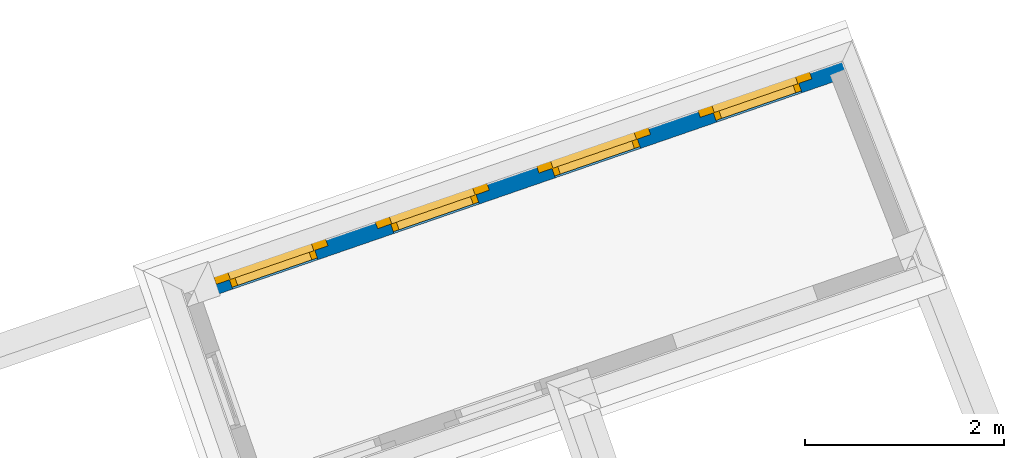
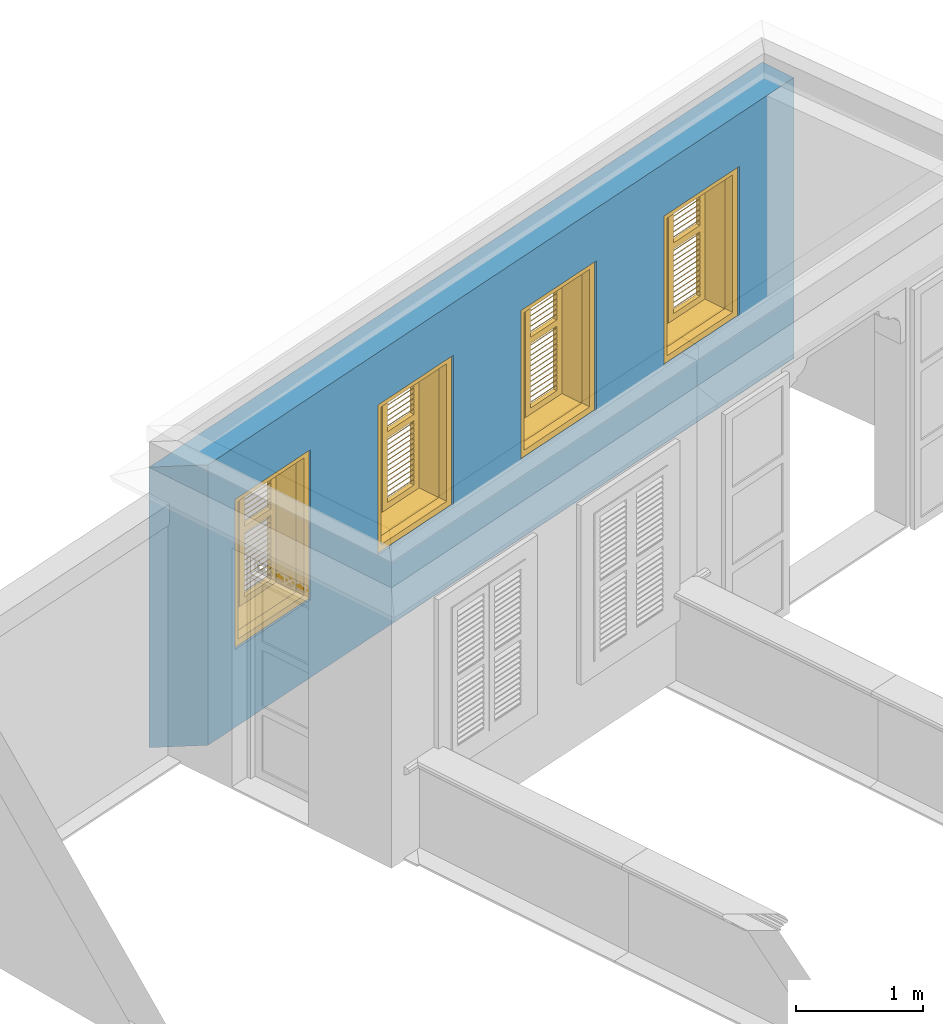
# One storey, part 13 of 16: 4 windows, 1 wall, 4 openings.
"""IFC4 building model written with IfcOpenShell, lengths in metres."""

from ifc_helpers import new_model, si_unit, frame, origin, origin_with_axes, place, context, subcontext, project, spatial, polyline, outline, extrude, faceted_brep, source, transform, mapped, material, layer, layer_set, layer_usage, type_object, type_shapes, element, fill, save


model = new_model("IFC4")

# Units and contexts
model_context = context("Model", 3, world=origin_with_axes())
body_context = subcontext(model_context, "Body", "Model", "MODEL_VIEW")
ifc_project = project(units=[si_unit("PLANEANGLEUNIT", "RADIAN"), si_unit("MASSUNIT", "GRAM", prefix="KILO"), si_unit("FORCEUNIT", "NEWTON", prefix="KILO"), si_unit("LENGTHUNIT", "METRE"), si_unit("AREAUNIT", "SQUARE_METRE"), si_unit("VOLUMEUNIT", "CUBIC_METRE")], contexts=[model_context, model_context])

# Site, building, storey
site_placement = place(None, origin_with_axes())
site = spatial("IfcSite", under=ifc_project, at=site_placement, Name="Site plot-8", CompositionType="ELEMENT")
building_placement = place(None, origin_with_axes())
building = spatial("IfcBuilding", under=site, at=building_placement, Name="Building plot-8", CompositionType="ELEMENT")
storey_placement = place(None, frame((0.0, 0.0, 3.0), z_axis=(0.0, 0.0, 1.0), x_axis=(1.0, 0.0, 0.0)))
storey = spatial("IfcBuildingStorey", under=building, at=storey_placement, Name="plot-8 1", CompositionType="ELEMENT", Elevation=3.0)

# Wall, openings, windows
ifc_material = material(Name="Masonry")
ifc_layer = layer(ifc_material, 0.33, ventilated=False)
ifc_layer_set = layer_set([ifc_layer], Name="exterior_0.08_0.25")
ifc_layer_usage = layer_usage(ifc_layer_set, "AXIS2", "POSITIVE", -0.25)
wall_type = type_object("IfcWallType", Name="exterior_0.08_0.25", PredefinedType="SOLIDWALL", material=ifc_layer_set)
wall_placement = place(storey_placement, frame((-5.76279158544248, 24.7267673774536, 0.0), z_axis=(0.0, 0.0, 1.0), x_axis=(-0.945331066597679, -0.326112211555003, 0.0)))
wall = element("IfcWall", 1, at=wall_placement, inside=storey, type_object=wall_type, material=ifc_layer_usage, Name="exterior", context=body_context, shape_type="SweptSolid", body=[
    extrude(outline(polyline([(-0.25, 0.0799999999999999), (-0.249999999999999, -0.249999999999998), (7.12613075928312, -0.25), (6.79613075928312, 0.0800000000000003), (-0.25, 0.0799999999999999)])), origin_with_axes(), (0.0, 0.0, 1.0), 2.7),
])
opening_1_placement = place(wall_placement, frame((0.40451634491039, 0.0, 0.75)))
opening_1 = element("IfcOpeningElement", 2, at=opening_1_placement, cuts=wall, Name="My Opening", ObjectType="Opening", context=body_context, shape_type="SweptSolid", body=[
    extrude(outline(polyline([(0.0, -0.269999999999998), (0.909999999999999, -0.27), (0.91, 1.1), (5.55111512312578e-16, 1.1), (0.0, -0.269999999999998)])), origin_with_axes(), (0.0, 0.0, 1.0), 1.445),
])
opening_2_placement = place(wall_placement, frame((2.12354903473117, 0.0, 0.75)))
opening_2 = element("IfcOpeningElement", 3, at=opening_2_placement, cuts=wall, Name="My Opening", ObjectType="Opening", context=body_context, shape_type="SweptSolid", body=[
    extrude(outline(polyline([(0.0, -0.270000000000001), (0.910000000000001, -0.27), (0.910000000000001, 1.1), (0.0, 1.1), (0.0, -0.270000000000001)])), origin_with_axes(), (0.0, 0.0, 1.0), 1.445),
])
opening_3_placement = place(wall_placement, frame((3.84258172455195, 0.0, 0.75)))
opening_3 = element("IfcOpeningElement", 4, at=opening_3_placement, cuts=wall, Name="My Opening", ObjectType="Opening", context=body_context, shape_type="SweptSolid", body=[
    extrude(outline(polyline([(0.0, -0.270000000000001), (0.91, -0.27), (0.91, 1.1), (-4.44089209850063e-16, 1.1), (0.0, -0.270000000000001)])), origin_with_axes(), (0.0, 0.0, 1.0), 1.445),
])
opening_4_placement = place(wall_placement, frame((5.56161441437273, 0.0, 0.75)))
opening_4 = element("IfcOpeningElement", 5, at=opening_4_placement, cuts=wall, Name="My Opening", ObjectType="Opening", context=body_context, shape_type="SweptSolid", body=[
    extrude(outline(polyline([(0.0, -0.269999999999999), (0.91, -0.270000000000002), (0.909999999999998, 1.1), (-8.88178419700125e-16, 1.1), (0.0, -0.269999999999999)])), origin_with_axes(), (0.0, 0.0, 1.0), 1.445),
])
window_type = type_object("IfcWindowType", Name="shuttered_shorter", PartitioningType="DOUBLE_PANEL_HORIZONTAL", PredefinedType="NOTDEFINED")
shared_shape = source(origin(), body_context, "Body", "Brep", [
    faceted_brep([(0.393, 0.0, 0.622), (0.074, 0.0, 0.622), (0.074, 0.0, 0.632), (0.393, 0.0, 0.632), (0.074, -0.04, 0.592), (0.393, -0.04, 0.592), (0.393, -0.04, 0.582), (0.074, -0.04, 0.582), (0.517, 0.0, 0.682), (0.836, 0.0, 0.682), (0.836, 0.0, 0.672), (0.517, 0.0, 0.672), (0.517, -0.04, 0.642), (0.836, -0.04, 0.642), (0.836, -0.04, 0.632), (0.517, -0.04, 0.632), (0.517, 0.0, 0.632), (0.836, 0.0, 0.632), (0.836, 0.0, 0.622), (0.517, 0.0, 0.622), (0.517, -0.04, 0.592), (0.836, -0.04, 0.592), (0.836, -0.04, 0.582), (0.517, -0.04, 0.582), (0.517, 0.0, 0.232), (0.836, 0.0, 0.232), (0.836, 0.0, 0.222), (0.517, 0.0, 0.222), (0.517, -0.04, 0.192), (0.836, -0.04, 0.192), (0.836, -0.04, 0.182), (0.517, -0.04, 0.182), (0.517, 0.0, 0.532), (0.836, 0.0, 0.532), (0.836, 0.0, 0.522), (0.517, 0.0, 0.522), (0.517, -0.04, 0.492), (0.836, -0.04, 0.492), (0.836, -0.04, 0.482), (0.517, -0.04, 0.482), (0.517, 0.0, 0.482), (0.836, 0.0, 0.482), (0.836, 0.0, 0.472), (0.517, 0.0, 0.472), (0.517, -0.04, 0.442), (0.836, -0.04, 0.442), (0.836, -0.04, 0.432), (0.517, -0.04, 0.432), (0.517, 0.0, 0.582), (0.836, 0.0, 0.582), (0.836, 0.0, 0.572), (0.517, 0.0, 0.572), (0.517, -0.04, 0.542), (0.836, -0.04, 0.542), (0.836, -0.04, 0.532), (0.517, -0.04, 0.532), (0.517, 0.0, 0.182), (0.836, 0.0, 0.182), (0.836, 0.0, 0.172), (0.517, 0.0, 0.172), (0.517, -0.04, 0.142), (0.836, -0.04, 0.142), (0.836, -0.04, 0.132), (0.517, -0.04, 0.132), (0.517, 0.0, 0.382), (0.836, 0.0, 0.382), (0.836, 0.0, 0.372), (0.517, 0.0, 0.372), (0.517, -0.04, 0.342), (0.836, -0.04, 0.342), (0.836, -0.04, 0.332), (0.517, -0.04, 0.332), (0.517, 0.0, 0.432), (0.836, 0.0, 0.432), (0.836, 0.0, 0.422), (0.517, 0.0, 0.422), (0.517, -0.04, 0.392), (0.836, -0.04, 0.392), (0.836, -0.04, 0.382), (0.517, -0.04, 0.382), (0.517, 0.0, 0.132), (0.836, 0.0, 0.132), (0.836, 0.0, 0.122), (0.517, 0.0, 0.122), (0.517, -0.04, 0.092), (0.836, -0.04, 0.092), (0.836, -0.04, 0.082), (0.517, -0.04, 0.082), (0.517, 0.0, 0.282), (0.836, 0.0, 0.282), (0.836, 0.0, 0.272), (0.517, 0.0, 0.272), (0.517, -0.04, 0.242), (0.836, -0.04, 0.242), (0.836, -0.04, 0.232), (0.517, -0.04, 0.232), (0.517, 0.0, 0.332), (0.836, 0.0, 0.332), (0.836, 0.0, 0.322), (0.517, 0.0, 0.322), (0.517, -0.04, 0.292), (0.836, -0.04, 0.292), (0.836, -0.04, 0.282), (0.517, -0.04, 0.282), (0.517, 0.0, 1.362667), (0.836, 0.0, 1.362667), (0.836, 0.0, 1.352667), (0.517, 0.0, 1.352667), (0.517, -0.04, 1.322667), (0.836, -0.04, 1.322667), (0.836, -0.04, 1.312667), (0.517, -0.04, 1.312667), (0.517, 0.0, 1.312667), (0.836, 0.0, 1.312667), (0.836, 0.0, 1.302667), (0.517, 0.0, 1.302667), (0.517, -0.04, 1.272667), (0.836, -0.04, 1.272667), (0.836, -0.04, 1.262667), (0.517, -0.04, 1.262667), (0.517, 0.0, 0.912667), (0.836, 0.0, 0.912667), (0.836, 0.0, 0.902667), (0.517, 0.0, 0.902667), (0.517, -0.04, 0.872667), (0.836, -0.04, 0.872667), (0.836, -0.04, 0.862667), (0.517, -0.04, 0.862667), (0.517, 0.0, 1.212667), (0.836, 0.0, 1.212667), (0.836, 0.0, 1.202667), (0.517, 0.0, 1.202667), (0.517, -0.04, 1.172667), (0.836, -0.04, 1.172667), (0.836, -0.04, 1.162667), (0.517, -0.04, 1.162667), (0.517, 0.0, 1.162667), (0.836, 0.0, 1.162667), (0.836, 0.0, 1.152667), (0.517, 0.0, 1.152667), (0.517, -0.04, 1.122667), (0.836, -0.04, 1.122667), (0.836, -0.04, 1.112667), (0.517, -0.04, 1.112667), (0.517, 0.0, 1.262667), (0.836, 0.0, 1.262667), (0.836, 0.0, 1.252667), (0.517, 0.0, 1.252667), (0.517, -0.04, 1.222667), (0.836, -0.04, 1.222667), (0.836, -0.04, 1.212667), (0.517, -0.04, 1.212667), (0.517, 0.0, 0.862667), (0.836, 0.0, 0.862667), (0.836, 0.0, 0.852667), (0.517, 0.0, 0.852667), (0.517, -0.04, 0.822667), (0.836, -0.04, 0.822667), (0.836, -0.04, 0.812667), (0.517, -0.04, 0.812667), (0.517, 0.0, 1.062667), (0.836, 0.0, 1.062667), (0.836, 0.0, 1.052667), (0.517, 0.0, 1.052667), (0.517, -0.04, 1.022667), (0.836, -0.04, 1.022667), (0.836, -0.04, 1.012667), (0.517, -0.04, 1.012667), (0.517, 0.0, 1.112667), (0.836, 0.0, 1.112667), (0.836, 0.0, 1.102667), (0.517, 0.0, 1.102667), (0.517, -0.04, 1.072667), (0.836, -0.04, 1.072667), (0.836, -0.04, 1.062667), (0.517, -0.04, 1.062667), (0.517, 0.0, 0.812667), (0.836, 0.0, 0.812667), (0.836, 0.0, 0.802667), (0.517, 0.0, 0.802667), (0.517, -0.04, 0.772667), (0.836, -0.04, 0.772667), (0.836, -0.04, 0.762667), (0.517, -0.04, 0.762667), (0.517, 0.0, 0.962667), (0.836, 0.0, 0.962667), (0.836, 0.0, 0.952667), (0.517, 0.0, 0.952667), (0.517, -0.04, 0.922667), (0.836, -0.04, 0.922667), (0.836, -0.04, 0.912667), (0.517, -0.04, 0.912667), (0.517, 0.0, 1.012667), (0.836, 0.0, 1.012667), (0.836, 0.0, 1.002667), (0.517, 0.0, 1.002667), (0.517, -0.04, 0.972667), (0.836, -0.04, 0.972667), (0.836, -0.04, 0.962667), (0.517, -0.04, 0.962667), (0.074, 0.0, 0.682), (0.393, 0.0, 0.682), (0.393, 0.0, 0.672), (0.074, 0.0, 0.672), (0.074, -0.04, 0.642), (0.393, -0.04, 0.642), (0.393, -0.04, 0.632), (0.074, -0.04, 0.632), (0.074, 0.0, 0.232), (0.393, 0.0, 0.232), (0.393, 0.0, 0.222), (0.074, 0.0, 0.222), (0.074, -0.04, 0.192), (0.393, -0.04, 0.192), (0.393, -0.04, 0.182), (0.074, -0.04, 0.182), (0.074, 0.0, 0.532), (0.393, 0.0, 0.532), (0.393, 0.0, 0.522), (0.074, 0.0, 0.522), (0.074, -0.04, 0.492), (0.393, -0.04, 0.492), (0.393, -0.04, 0.482), (0.074, -0.04, 0.482), (0.074, 0.0, 0.482), (0.393, 0.0, 0.482), (0.393, 0.0, 0.472), (0.074, 0.0, 0.472), (0.074, -0.04, 0.442), (0.393, -0.04, 0.442), (0.393, -0.04, 0.432), (0.074, -0.04, 0.432), (0.074, 0.0, 0.582), (0.393, 0.0, 0.582), (0.393, 0.0, 0.572), (0.074, 0.0, 0.572), (0.074, -0.04, 0.542), (0.393, -0.04, 0.542), (0.393, -0.04, 0.532), (0.074, -0.04, 0.532), (0.074, 0.0, 0.182), (0.393, 0.0, 0.182), (0.393, 0.0, 0.172), (0.074, 0.0, 0.172), (0.074, -0.04, 0.142), (0.393, -0.04, 0.142), (0.393, -0.04, 0.132), (0.074, -0.04, 0.132), (0.074, 0.0, 0.382), (0.393, 0.0, 0.382), (0.393, 0.0, 0.372), (0.074, 0.0, 0.372), (0.074, -0.04, 0.342), (0.393, -0.04, 0.342), (0.393, -0.04, 0.332), (0.074, -0.04, 0.332), (0.074, 0.0, 0.432), (0.393, 0.0, 0.432), (0.393, 0.0, 0.422), (0.074, 0.0, 0.422), (0.074, -0.04, 0.392), (0.393, -0.04, 0.392), (0.393, -0.04, 0.382), (0.074, -0.04, 0.382), (0.074, 0.0, 0.132), (0.393, 0.0, 0.132), (0.393, 0.0, 0.122), (0.074, 0.0, 0.122), (0.074, -0.04, 0.092), (0.393, -0.04, 0.092), (0.393, -0.04, 0.082), (0.074, -0.04, 0.082), (0.074, 0.0, 0.282), (0.393, 0.0, 0.282), (0.393, 0.0, 0.272), (0.074, 0.0, 0.272), (0.074, -0.04, 0.242), (0.393, -0.04, 0.242), (0.393, -0.04, 0.232), (0.074, -0.04, 0.232), (0.074, 0.0, 0.332), (0.393, 0.0, 0.332), (0.393, 0.0, 0.322), (0.074, 0.0, 0.322), (0.074, -0.04, 0.292), (0.393, -0.04, 0.292), (0.393, -0.04, 0.282), (0.074, -0.04, 0.282), (0.074, 0.0, 1.362667), (0.393, 0.0, 1.362667), (0.393, 0.0, 1.352667), (0.074, 0.0, 1.352667), (0.074, -0.04, 1.322667), (0.393, -0.04, 1.322667), (0.393, -0.04, 1.312667), (0.074, -0.04, 1.312667), (0.074, 0.0, 1.312667), (0.393, 0.0, 1.312667), (0.393, 0.0, 1.302667), (0.074, 0.0, 1.302667), (0.074, -0.04, 1.272667), (0.393, -0.04, 1.272667), (0.393, -0.04, 1.262667), (0.074, -0.04, 1.262667), (0.074, 0.0, 0.912667), (0.393, 0.0, 0.912667), (0.393, 0.0, 0.902667), (0.074, 0.0, 0.902667), (0.074, -0.04, 0.872667), (0.393, -0.04, 0.872667), (0.393, -0.04, 0.862667), (0.074, -0.04, 0.862667), (0.074, 0.0, 1.212667), (0.393, 0.0, 1.212667), (0.393, 0.0, 1.202667), (0.074, 0.0, 1.202667), (0.074, -0.04, 1.172667), (0.393, -0.04, 1.172667), (0.393, -0.04, 1.162667), (0.074, -0.04, 1.162667), (0.074, 0.0, 1.162667), (0.393, 0.0, 1.162667), (0.393, 0.0, 1.152667), (0.074, 0.0, 1.152667), (0.074, -0.04, 1.122667), (0.393, -0.04, 1.122667), (0.393, -0.04, 1.112667), (0.074, -0.04, 1.112667), (0.074, 0.0, 1.262667), (0.393, 0.0, 1.262667), (0.393, 0.0, 1.252667), (0.074, 0.0, 1.252667), (0.074, -0.04, 1.222667), (0.393, -0.04, 1.222667), (0.393, -0.04, 1.212667), (0.074, -0.04, 1.212667), (0.074, 0.0, 0.862667), (0.393, 0.0, 0.862667), (0.393, 0.0, 0.852667), (0.074, 0.0, 0.852667), (0.074, -0.04, 0.822667), (0.393, -0.04, 0.822667), (0.393, -0.04, 0.812667), (0.074, -0.04, 0.812667), (0.074, 0.0, 1.062667), (0.393, 0.0, 1.062667), (0.393, 0.0, 1.052667), (0.074, 0.0, 1.052667), (0.074, -0.04, 1.022667), (0.393, -0.04, 1.022667), (0.393, -0.04, 1.012667), (0.074, -0.04, 1.012667), (0.074, 0.0, 1.112667), (0.393, 0.0, 1.112667), (0.393, 0.0, 1.102667), (0.074, 0.0, 1.102667), (0.074, -0.04, 1.072667), (0.393, -0.04, 1.072667), (0.393, -0.04, 1.062667), (0.074, -0.04, 1.062667), (0.074, 0.0, 0.812667), (0.393, 0.0, 0.812667), (0.393, 0.0, 0.802667), (0.074, 0.0, 0.802667), (0.074, -0.04, 0.772667), (0.393, -0.04, 0.772667), (0.393, -0.04, 0.762667), (0.074, -0.04, 0.762667), (0.074, 0.0, 0.962667), (0.393, 0.0, 0.962667), (0.393, 0.0, 0.952667), (0.074, 0.0, 0.952667), (0.074, -0.04, 0.922667), (0.393, -0.04, 0.922667), (0.393, -0.04, 0.912667), (0.074, -0.04, 0.912667), (0.074, 0.0, 1.012667), (0.393, 0.0, 1.012667), (0.393, 0.0, 1.002667), (0.074, 0.0, 1.002667), (0.074, -0.04, 0.972667), (0.393, -0.04, 0.972667), (0.393, -0.04, 0.962667), (0.074, -0.04, 0.962667), (0.517, -0.04, 0.072), (0.457, -0.04, 0.012), (0.896, -0.04, 0.012), (0.836, -0.04, 0.072), (0.457, -0.04, 0.692667), (0.517, -0.04, 0.692667), (0.457, 0.0, 0.012), (0.896, 0.0, 0.012), (0.836, -0.04, 0.692667), (0.896, -0.04, 0.692667), (0.836, 0.0, 0.072), (0.517, 0.0, 0.072), (0.457, 0.0, 0.692667), (0.517, 0.0, 0.692667), (0.517, -0.04, 0.752666), (0.457, -0.04, 0.752666), (0.896, 0.0, 0.692667), (0.836, 0.0, 0.692667), (0.836, -0.04, 0.752666), (0.896, -0.04, 0.752666), (0.457, 0.0, 0.752666), (0.457, -0.04, 1.433333), (0.517, -0.04, 1.373333), (0.896, 0.0, 0.752666), (0.836, -0.04, 1.373333), (0.896, -0.04, 1.433333), (0.457, 0.0, 1.433333), (0.517, 0.0, 0.752666), (0.836, 0.0, 0.752666), (0.517, 0.0, 1.373333), (0.896, 0.0, 1.433333), (0.836, 0.0, 1.373333), (0.074, -0.04, 0.072), (0.014, -0.04, 0.012), (0.453, -0.04, 0.012), (0.393, -0.04, 0.072), (0.014, -0.04, 0.692667), (0.074, -0.04, 0.692667), (0.014, 0.0, 0.012), (0.453, 0.0, 0.012), (0.393, -0.04, 0.692667), (0.453, -0.04, 0.692667), (0.393, 0.0, 0.072), (0.074, 0.0, 0.072), (0.014, 0.0, 0.692667), (0.074, 0.0, 0.692667), (0.074, -0.04, 0.752666), (0.014, -0.04, 0.752666), (0.453, 0.0, 0.692667), (0.393, 0.0, 0.692667), (0.393, -0.04, 0.752666), (0.453, -0.04, 0.752666), (0.014, 0.0, 0.752666), (0.014, -0.04, 1.433333), (0.074, -0.04, 1.373333), (0.453, 0.0, 0.752666), (0.393, -0.04, 1.373333), (0.453, -0.04, 1.433333), (0.014, 0.0, 1.433333), (0.074, 0.0, 0.752666), (0.393, 0.0, 0.752666), (0.074, 0.0, 1.373333), (0.453, 0.0, 1.433333), (0.393, 0.0, 1.373333), (0.0, 0.33, 1.445), (0.91, 0.33, 1.445), (0.85, 0.33, 1.385), (0.06, 0.33, 1.385), (0.91, 0.25, 1.445), (0.0, 0.25, 1.445), (0.91, 0.25, 1.445), (0.85, 0.33, 0.06), (0.91, 0.33, 0.0), (0.85, 0.25, 1.385), (0.06, 0.25, 1.385), (0.0, 0.33, 0.0), (0.06, 0.33, 0.06), (0.0, 0.25, 0.0), (0.91, 0.25, 0.0), (0.85, 0.25, 0.06), (0.06, 0.25, 0.06), (1.05, 0.25, 1.585), (-0.14, 0.25, 1.585), (-0.14, -0.03, 1.585), (1.05, -0.03, 1.585), (0.9, -0.03, 1.435), (0.01, -0.03, 1.435), (0.01, 0.25, 1.435), (0.9, 0.25, 1.435), (0.9, 0.25, 0.01), (0.9, -0.03, 0.01), (1.05, -0.03, -0.14), (1.05, 0.25, -0.14), (0.01, -0.03, 0.01), (0.01, 0.25, 0.01), (-0.14, -0.03, -0.14), (-0.14, 0.25, -0.14)], [[[0, 1, 2, 3]], [[4, 5, 3, 2]], [[5, 6, 0, 3]], [[1, 0, 6, 7]], [[2, 1, 7, 4]], [[5, 4, 7, 6]], [[8, 9, 10, 11]], [[12, 13, 9, 8]], [[13, 14, 10, 9]], [[14, 15, 11, 10]], [[15, 12, 8, 11]], [[13, 12, 15, 14]], [[16, 17, 18, 19]], [[20, 21, 17, 16]], [[21, 22, 18, 17]], [[22, 23, 19, 18]], [[23, 20, 16, 19]], [[21, 20, 23, 22]], [[24, 25, 26, 27]], [[28, 29, 25, 24]], [[29, 30, 26, 25]], [[30, 31, 27, 26]], [[31, 28, 24, 27]], [[29, 28, 31, 30]], [[32, 33, 34, 35]], [[36, 37, 33, 32]], [[37, 38, 34, 33]], [[38, 39, 35, 34]], [[39, 36, 32, 35]], [[37, 36, 39, 38]], [[40, 41, 42, 43]], [[44, 45, 41, 40]], [[45, 46, 42, 41]], [[46, 47, 43, 42]], [[47, 44, 40, 43]], [[45, 44, 47, 46]], [[48, 49, 50, 51]], [[52, 53, 49, 48]], [[53, 54, 50, 49]], [[54, 55, 51, 50]], [[55, 52, 48, 51]], [[53, 52, 55, 54]], [[56, 57, 58, 59]], [[60, 61, 57, 56]], [[61, 62, 58, 57]], [[62, 63, 59, 58]], [[63, 60, 56, 59]], [[61, 60, 63, 62]], [[64, 65, 66, 67]], [[68, 69, 65, 64]], [[69, 70, 66, 65]], [[70, 71, 67, 66]], [[71, 68, 64, 67]], [[69, 68, 71, 70]], [[72, 73, 74, 75]], [[76, 77, 73, 72]], [[77, 78, 74, 73]], [[78, 79, 75, 74]], [[79, 76, 72, 75]], [[77, 76, 79, 78]], [[80, 81, 82, 83]], [[84, 85, 81, 80]], [[85, 86, 82, 81]], [[86, 87, 83, 82]], [[87, 84, 80, 83]], [[85, 84, 87, 86]], [[88, 89, 90, 91]], [[92, 93, 89, 88]], [[93, 94, 90, 89]], [[94, 95, 91, 90]], [[95, 92, 88, 91]], [[93, 92, 95, 94]], [[96, 97, 98, 99]], [[100, 101, 97, 96]], [[101, 102, 98, 97]], [[102, 103, 99, 98]], [[103, 100, 96, 99]], [[101, 100, 103, 102]], [[104, 105, 106, 107]], [[108, 109, 105, 104]], [[109, 110, 106, 105]], [[110, 111, 107, 106]], [[111, 108, 104, 107]], [[109, 108, 111, 110]], [[112, 113, 114, 115]], [[116, 117, 113, 112]], [[117, 118, 114, 113]], [[118, 119, 115, 114]], [[119, 116, 112, 115]], [[117, 116, 119, 118]], [[120, 121, 122, 123]], [[124, 125, 121, 120]], [[125, 126, 122, 121]], [[126, 127, 123, 122]], [[127, 124, 120, 123]], [[125, 124, 127, 126]], [[128, 129, 130, 131]], [[132, 133, 129, 128]], [[133, 134, 130, 129]], [[134, 135, 131, 130]], [[135, 132, 128, 131]], [[133, 132, 135, 134]], [[136, 137, 138, 139]], [[140, 141, 137, 136]], [[141, 142, 138, 137]], [[142, 143, 139, 138]], [[139, 143, 140, 136]], [[141, 140, 143, 142]], [[144, 145, 146, 147]], [[148, 149, 145, 144]], [[149, 150, 146, 145]], [[150, 151, 147, 146]], [[151, 148, 144, 147]], [[149, 148, 151, 150]], [[152, 153, 154, 155]], [[156, 157, 153, 152]], [[157, 158, 154, 153]], [[158, 159, 155, 154]], [[159, 156, 152, 155]], [[157, 156, 159, 158]], [[160, 161, 162, 163]], [[164, 165, 161, 160]], [[165, 166, 162, 161]], [[166, 167, 163, 162]], [[167, 164, 160, 163]], [[165, 164, 167, 166]], [[168, 169, 170, 171]], [[172, 173, 169, 168]], [[173, 174, 170, 169]], [[174, 175, 171, 170]], [[175, 172, 168, 171]], [[173, 172, 175, 174]], [[176, 177, 178, 179]], [[180, 181, 177, 176]], [[181, 182, 178, 177]], [[182, 183, 179, 178]], [[183, 180, 176, 179]], [[181, 180, 183, 182]], [[184, 185, 186, 187]], [[188, 189, 185, 184]], [[189, 190, 186, 185]], [[190, 191, 187, 186]], [[191, 188, 184, 187]], [[189, 188, 191, 190]], [[192, 193, 194, 195]], [[196, 197, 193, 192]], [[197, 198, 194, 193]], [[198, 199, 195, 194]], [[199, 196, 192, 195]], [[197, 196, 199, 198]], [[200, 201, 202, 203]], [[204, 205, 201, 200]], [[205, 206, 202, 201]], [[206, 207, 203, 202]], [[207, 204, 200, 203]], [[205, 204, 207, 206]], [[208, 209, 210, 211]], [[212, 213, 209, 208]], [[213, 214, 210, 209]], [[214, 215, 211, 210]], [[215, 212, 208, 211]], [[213, 212, 215, 214]], [[216, 217, 218, 219]], [[220, 221, 217, 216]], [[221, 222, 218, 217]], [[222, 223, 219, 218]], [[223, 220, 216, 219]], [[221, 220, 223, 222]], [[224, 225, 226, 227]], [[228, 229, 225, 224]], [[229, 230, 226, 225]], [[230, 231, 227, 226]], [[231, 228, 224, 227]], [[229, 228, 231, 230]], [[232, 233, 234, 235]], [[236, 237, 233, 232]], [[237, 238, 234, 233]], [[238, 239, 235, 234]], [[239, 236, 232, 235]], [[237, 236, 239, 238]], [[240, 241, 242, 243]], [[244, 245, 241, 240]], [[245, 246, 242, 241]], [[246, 247, 243, 242]], [[247, 244, 240, 243]], [[245, 244, 247, 246]], [[248, 249, 250, 251]], [[252, 253, 249, 248]], [[253, 254, 250, 249]], [[254, 255, 251, 250]], [[255, 252, 248, 251]], [[253, 252, 255, 254]], [[256, 257, 258, 259]], [[260, 261, 257, 256]], [[261, 262, 258, 257]], [[262, 263, 259, 258]], [[263, 260, 256, 259]], [[261, 260, 263, 262]], [[264, 265, 266, 267]], [[268, 269, 265, 264]], [[269, 270, 266, 265]], [[270, 271, 267, 266]], [[271, 268, 264, 267]], [[269, 268, 271, 270]], [[272, 273, 274, 275]], [[276, 277, 273, 272]], [[277, 278, 274, 273]], [[278, 279, 275, 274]], [[279, 276, 272, 275]], [[277, 276, 279, 278]], [[280, 281, 282, 283]], [[284, 285, 281, 280]], [[285, 286, 282, 281]], [[286, 287, 283, 282]], [[287, 284, 280, 283]], [[285, 284, 287, 286]], [[288, 289, 290, 291]], [[292, 293, 289, 288]], [[293, 294, 290, 289]], [[294, 295, 291, 290]], [[295, 292, 288, 291]], [[293, 292, 295, 294]], [[296, 297, 298, 299]], [[300, 301, 297, 296]], [[301, 302, 298, 297]], [[302, 303, 299, 298]], [[303, 300, 296, 299]], [[301, 300, 303, 302]], [[304, 305, 306, 307]], [[308, 309, 305, 304]], [[309, 310, 306, 305]], [[310, 311, 307, 306]], [[311, 308, 304, 307]], [[309, 308, 311, 310]], [[312, 313, 314, 315]], [[316, 317, 313, 312]], [[317, 318, 314, 313]], [[318, 319, 315, 314]], [[319, 316, 312, 315]], [[317, 316, 319, 318]], [[320, 321, 322, 323]], [[324, 325, 321, 320]], [[325, 326, 322, 321]], [[326, 327, 323, 322]], [[327, 324, 320, 323]], [[325, 324, 327, 326]], [[328, 329, 330, 331]], [[332, 333, 329, 328]], [[333, 334, 330, 329]], [[334, 335, 331, 330]], [[335, 332, 328, 331]], [[333, 332, 335, 334]], [[336, 337, 338, 339]], [[340, 341, 337, 336]], [[341, 342, 338, 337]], [[342, 343, 339, 338]], [[343, 340, 336, 339]], [[341, 340, 343, 342]], [[344, 345, 346, 347]], [[348, 349, 345, 344]], [[349, 350, 346, 345]], [[350, 351, 347, 346]], [[351, 348, 344, 347]], [[349, 348, 351, 350]], [[352, 353, 354, 355]], [[356, 357, 353, 352]], [[357, 358, 354, 353]], [[358, 359, 355, 354]], [[359, 356, 352, 355]], [[357, 356, 359, 358]], [[360, 361, 362, 363]], [[364, 365, 361, 360]], [[365, 366, 362, 361]], [[366, 367, 363, 362]], [[367, 364, 360, 363]], [[365, 364, 367, 366]], [[368, 369, 370, 371]], [[372, 373, 369, 368]], [[373, 374, 370, 369]], [[374, 375, 371, 370]], [[375, 372, 368, 371]], [[373, 372, 375, 374]], [[376, 377, 378, 379]], [[380, 381, 377, 376]], [[381, 382, 378, 377]], [[382, 383, 379, 378]], [[383, 380, 376, 379]], [[381, 380, 383, 382]], [[384, 385, 386, 387]], [[388, 385, 384, 389]], [[390, 391, 386, 385]], [[392, 387, 386, 393]], [[384, 387, 394, 395]], [[390, 385, 388, 396]], [[389, 384, 395, 397]], [[389, 398, 399, 388]], [[390, 395, 394, 391]], [[400, 393, 386, 391]], [[387, 392, 401, 394]], [[402, 392, 393, 403]], [[396, 388, 399, 404]], [[390, 396, 397, 395]], [[392, 389, 397, 401]], [[398, 389, 392, 402]], [[405, 399, 398, 406]], [[394, 401, 400, 391]], [[407, 403, 393, 400]], [[408, 402, 403, 409]], [[404, 399, 405, 410]], [[411, 397, 396, 404]], [[397, 411, 412, 401]], [[398, 402, 412, 411]], [[406, 398, 411, 413]], [[405, 406, 408, 409]], [[401, 412, 407, 400]], [[414, 409, 403, 407]], [[402, 408, 415, 412]], [[405, 409, 414, 410]], [[404, 410, 413, 411]], [[408, 406, 413, 415]], [[412, 415, 414, 407]], [[413, 410, 414, 415]], [[416, 417, 418, 419]], [[420, 417, 416, 421]], [[422, 423, 418, 417]], [[424, 419, 418, 425]], [[416, 419, 426, 427]], [[422, 417, 420, 428]], [[421, 416, 427, 429]], [[421, 430, 431, 420]], [[422, 427, 426, 423]], [[432, 425, 418, 423]], [[419, 424, 433, 426]], [[434, 424, 425, 435]], [[428, 420, 431, 436]], [[422, 428, 429, 427]], [[424, 421, 429, 433]], [[430, 421, 424, 434]], [[437, 431, 430, 438]], [[426, 433, 432, 423]], [[439, 435, 425, 432]], [[440, 434, 435, 441]], [[436, 431, 437, 442]], [[443, 429, 428, 436]], [[429, 443, 444, 433]], [[430, 434, 444, 443]], [[438, 430, 443, 445]], [[437, 438, 440, 441]], [[433, 444, 439, 432]], [[446, 441, 435, 439]], [[434, 440, 447, 444]], [[437, 441, 446, 442]], [[436, 442, 445, 443]], [[440, 438, 445, 447]], [[444, 447, 446, 439]], [[445, 442, 446, 447]], [[448, 449, 450, 451]], [[452, 449, 448]], [[448, 453, 454]], [[448, 454, 452]], [[455, 450, 449, 456]], [[451, 450, 457, 458]], [[459, 448, 451, 460]], [[448, 459, 461, 453]], [[454, 453, 458, 457]], [[462, 452, 454]], [[454, 457, 463]], [[454, 463, 462]], [[456, 449, 452, 462]], [[450, 455, 463, 457]], [[456, 459, 460, 455]], [[460, 451, 458, 464]], [[459, 456, 462, 461]], [[464, 458, 453, 461]], [[461, 462, 463, 464]], [[455, 460, 464, 463]], [[465, 466, 467, 468]], [[469, 470, 471, 472]], [[473, 474, 469, 472]], [[465, 468, 475, 476]], [[470, 477, 478, 471]], [[474, 473, 478, 477]], [[474, 477, 479, 475]], [[470, 467, 479, 477]], [[470, 469, 468, 467]], [[474, 475, 468, 469]], [[471, 478, 480, 466]], [[473, 472, 465, 476]], [[473, 476, 480, 478]], [[466, 465, 472, 471]], [[480, 476, 475, 479]], [[480, 479, 467, 466]]]),
])
type_shapes(window_type, [shared_shape])
window_1_placement = place(storey_placement, frame((-6.23324375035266, 24.8500890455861, 0.75), z_axis=(0.0, 0.0, 1.0), x_axis=(-0.860251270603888, -0.296762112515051, 0.0)))
window_1 = element("IfcWindow", 6, at=window_1_placement, inside=storey, type_object=window_type, Name="circulation outside window", OverallHeight=1.445, OverallWidth=0.91, context=body_context, shape_type="MappedRepresentation", body=[
    mapped(shared_shape, transform((0.0, 0.0, 0.0), scale=1.0)),
])
fill(opening_1, window_1)
window_2_placement = place(storey_placement, frame((-7.85829875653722, 24.2894914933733, 0.75), z_axis=(0.0, 0.0, 1.0), x_axis=(-0.860251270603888, -0.296762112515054, 0.0)))
window_2 = element("IfcWindow", 7, at=window_2_placement, inside=storey, type_object=window_type, Name="circulation outside window", OverallHeight=1.445, OverallWidth=0.91, context=body_context, shape_type="MappedRepresentation", body=[
    mapped(shared_shape, transform((0.0, 0.0, 0.0), scale=1.0)),
])
fill(opening_2, window_2)
window_3_placement = place(storey_placement, frame((-9.48335376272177, 23.7288939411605, 0.75), z_axis=(0.0, 0.0, 1.0), x_axis=(-0.860251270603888, -0.296762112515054, 0.0)))
window_3 = element("IfcWindow", 8, at=window_3_placement, inside=storey, type_object=window_type, Name="circulation outside window", OverallHeight=1.445, OverallWidth=0.91, context=body_context, shape_type="MappedRepresentation", body=[
    mapped(shared_shape, transform((0.0, 0.0, 0.0), scale=1.0)),
])
fill(opening_3, window_3)
window_4_placement = place(storey_placement, frame((-11.1084087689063, 23.1682963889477, 0.75), z_axis=(0.0, 0.0, 1.0), x_axis=(-0.860251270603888, -0.296762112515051, 0.0)))
window_4 = element("IfcWindow", 9, at=window_4_placement, inside=storey, type_object=window_type, Name="circulation outside window", OverallHeight=1.445, OverallWidth=0.91, context=body_context, shape_type="MappedRepresentation", body=[
    mapped(shared_shape, transform((0.0, 0.0, 0.0), scale=1.0)),
])
fill(opening_4, window_4)

save(model, "model.ifc")
